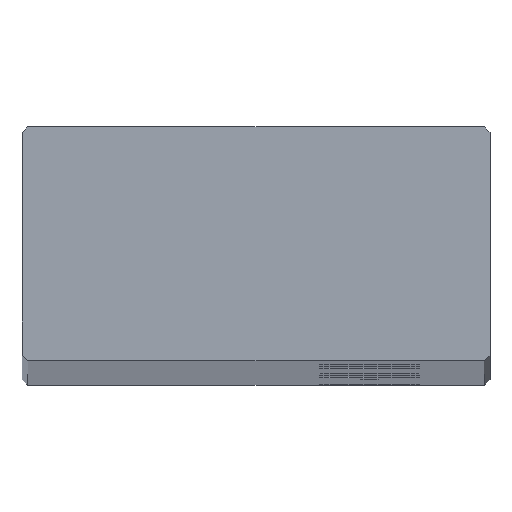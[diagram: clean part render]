
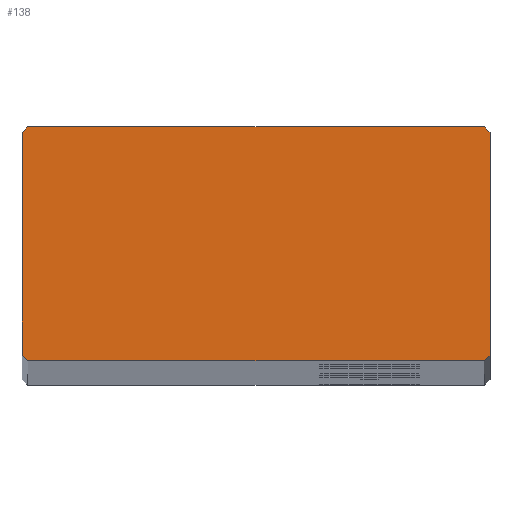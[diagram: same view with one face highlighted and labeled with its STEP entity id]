
A CAD part, top view. The second image highlights one B-rep face of the part: STEP entity #138.
In plain terms, the highlighted planar face has unit normal (0, 0, 1).
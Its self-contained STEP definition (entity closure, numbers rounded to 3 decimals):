
#138=ADVANCED_FACE('',(#300),#301,.T.);
#300=FACE_OUTER_BOUND('',#463,.T.);
#301=PLANE('',#464);
#463=EDGE_LOOP('',(#952,#953,#954,#955,#956,#957,#958,#959));
#464=AXIS2_PLACEMENT_3D('',#960,#961,#962);
#952=ORIENTED_EDGE('',*,*,#1106,.F.);
#953=ORIENTED_EDGE('',*,*,#1128,.F.);
#954=ORIENTED_EDGE('',*,*,#1125,.F.);
#955=ORIENTED_EDGE('',*,*,#1122,.F.);
#956=ORIENTED_EDGE('',*,*,#1119,.F.);
#957=ORIENTED_EDGE('',*,*,#1116,.F.);
#958=ORIENTED_EDGE('',*,*,#1113,.F.);
#959=ORIENTED_EDGE('',*,*,#1110,.F.);
#960=CARTESIAN_POINT('',(0.,16.5,1976.0));
#961=DIRECTION('',(0.0,0.0,1.0));
#962=DIRECTION('',(1.0,0.0,0.0));
#1106=EDGE_CURVE('',#1350,#1351,#1352,.T.);
#1110=EDGE_CURVE('',#1351,#1358,#1359,.T.);
#1113=EDGE_CURVE('',#1358,#1363,#1364,.T.);
#1116=EDGE_CURVE('',#1363,#1368,#1369,.T.);
#1119=EDGE_CURVE('',#1368,#1373,#1374,.T.);
#1122=EDGE_CURVE('',#1373,#1378,#1379,.T.);
#1125=EDGE_CURVE('',#1378,#1383,#1384,.T.);
#1128=EDGE_CURVE('',#1383,#1350,#1388,.T.);
#1350=VERTEX_POINT('',#1654);
#1351=VERTEX_POINT('',#1655);
#1352=LINE('',#1656,#1657);
#1358=VERTEX_POINT('',#1666);
#1359=LINE('',#1667,#1668);
#1363=VERTEX_POINT('',#1674);
#1364=LINE('',#1675,#1676);
#1368=VERTEX_POINT('',#1682);
#1369=LINE('',#1683,#1684);
#1373=VERTEX_POINT('',#1690);
#1374=LINE('',#1691,#1692);
#1378=VERTEX_POINT('',#1698);
#1379=LINE('',#1699,#1700);
#1383=VERTEX_POINT('',#1706);
#1384=LINE('',#1707,#1708);
#1388=LINE('',#1714,#1715);
#1654=CARTESIAN_POINT('',(-32.2,0.,1976.0));
#1655=CARTESIAN_POINT('',(-33.0,0.8,1976.0));
#1656=CARTESIAN_POINT('',(-32.2,0.,1976.0));
#1657=VECTOR('',#2026,1.0);
#1666=CARTESIAN_POINT('',(-33.0,32.2,1976.0));
#1667=CARTESIAN_POINT('',(-33.0,0.8,1976.0));
#1668=VECTOR('',#2030,1.0);
#1674=CARTESIAN_POINT('',(-32.2,33.0,1976.0));
#1675=CARTESIAN_POINT('',(-33.0,32.2,1976.0));
#1676=VECTOR('',#2033,1.0);
#1682=CARTESIAN_POINT('',(32.2,33.0,1976.0));
#1683=CARTESIAN_POINT('',(-32.2,33.0,1976.0));
#1684=VECTOR('',#2036,1.0);
#1690=CARTESIAN_POINT('',(33.0,32.2,1976.0));
#1691=CARTESIAN_POINT('',(32.2,33.0,1976.0));
#1692=VECTOR('',#2039,1.0);
#1698=CARTESIAN_POINT('',(33.0,0.8,1976.0));
#1699=CARTESIAN_POINT('',(33.0,0.8,1976.0));
#1700=VECTOR('',#2042,1.0);
#1706=CARTESIAN_POINT('',(32.2,0.,1976.0));
#1707=CARTESIAN_POINT('',(32.2,0.,1976.0));
#1708=VECTOR('',#2045,1.0);
#1714=CARTESIAN_POINT('',(-32.2,0.,1976.0));
#1715=VECTOR('',#2048,1.0);
#2026=DIRECTION('',(-0.707,0.707,0.0));
#2030=DIRECTION('',(0.0,1.0,0.0));
#2033=DIRECTION('',(0.707,0.707,0.0));
#2036=DIRECTION('',(1.0,0.0,0.0));
#2039=DIRECTION('',(0.707,-0.707,0.0));
#2042=DIRECTION('',(-0.0,-1.0,-0.0));
#2045=DIRECTION('',(-0.707,-0.707,-0.0));
#2048=DIRECTION('',(-1.0,-0.0,-0.0));
